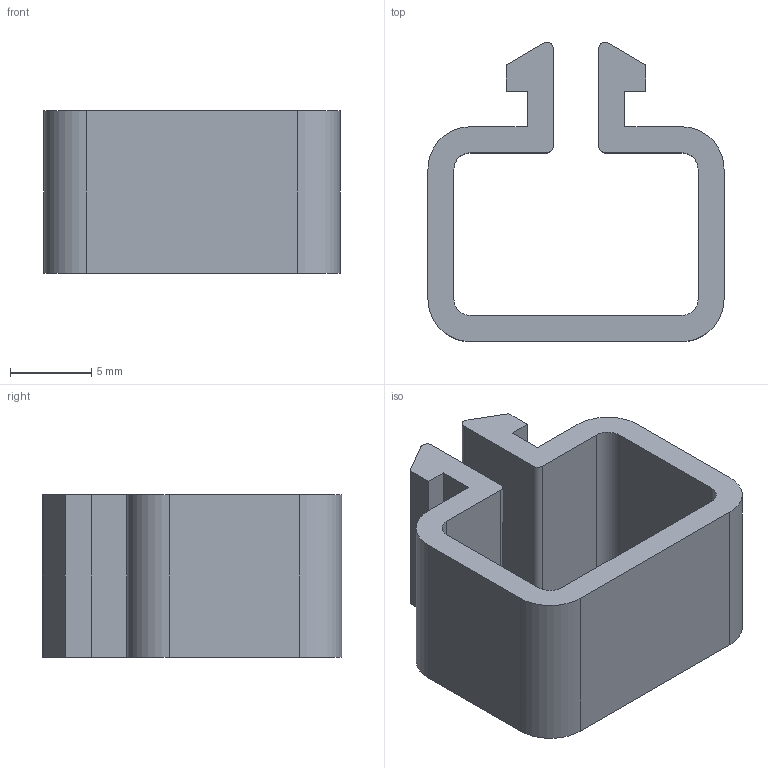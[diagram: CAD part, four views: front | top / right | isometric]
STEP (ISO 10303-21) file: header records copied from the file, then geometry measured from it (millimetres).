
FILE_DESCRIPTION (( 'STEP AP214' ), '1' );
FILE_NAME ('Clips S6-20-10x15.STEP', '2023-05-22T08:09:48', ( '' ), ( '' ), 'SwSTEP 2.0', 'SolidWorks 2022', '' );
FILE_SCHEMA (( 'AUTOMOTIVE_DESIGN' ));
Length unit declared in the file: millimetre
Products named in the file (1): Clips S6-20-10x15
Bounding box: 18.2 x 18.4 x 10 mm (x, y, z)
Volume: 1017.7 mm3; surface area: 1478.4 mm2
Topology: 1 solids, 1 shells, 34 faces, 96 edges, 64 vertices
Faces by surface type: plane 22, cylinder 12
Entity records: 1138 total; most frequent: CARTESIAN_POINT 195, ORIENTED_EDGE 192, DIRECTION 190, EDGE_CURVE 96, VECTOR 72, LINE 72, VERTEX_POINT 64, AXIS2_PLACEMENT_3D 59
